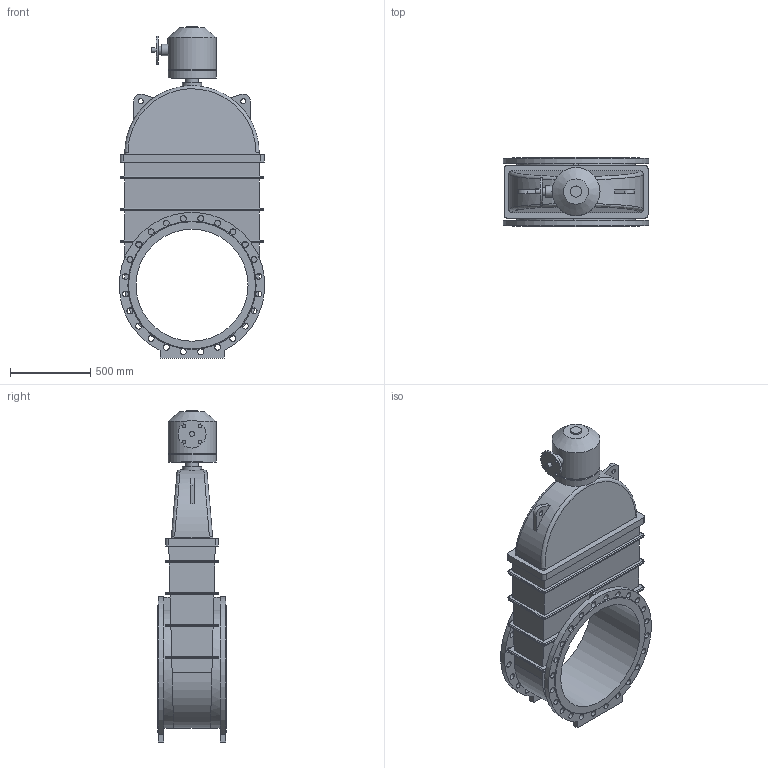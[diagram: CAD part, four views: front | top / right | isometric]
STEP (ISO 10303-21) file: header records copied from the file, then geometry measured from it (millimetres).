
FILE_DESCRIPTION(('STEP AP203'), '1');
FILE_NAME('Çàäâèæêà 47GV.Z DN700 PN10_PN16 + ðåäóêòîð ñ âõîäíûì ôëàíöåì', '', ('UNSPECIFIED'), ('UNSPECIFIED'), 'ASCON STEP Converter 1.6', 'ASCON Math Kernel', '');
FILE_SCHEMA(('CONFIG_CONTROL_DESIGN'));
Length unit declared in the file: millimetre
Bounding box: 907.39 x 430 x 2075 mm (x, y, z)
Volume: 266742195.5 mm3; surface area: 6126233.8 mm2
Topology: 1 solids, 1 shells, 313 faces, 748 edges, 475 vertices
Faces by surface type: cylinder 154, plane 122, bspline 34, cone 3
Full cylindrical faces by diameter (mm): 14 x8, 18 x12, 30 x2, 37 x48, 50 x1, 70 x2, 80 x1, 120 x1, 175 x1, 280 x1, 300 x2, 700 x1
Entity records: 15150 total; most frequent: CARTESIAN_POINT 5657, DIRECTION 1366, ORIENTED_EDGE 1330, EDGE_CURVE 665, EDGE_LOOP 544, AXIS2_PLACEMENT_3D 535, VERTEX_POINT 475, FACE_BOUND 378
